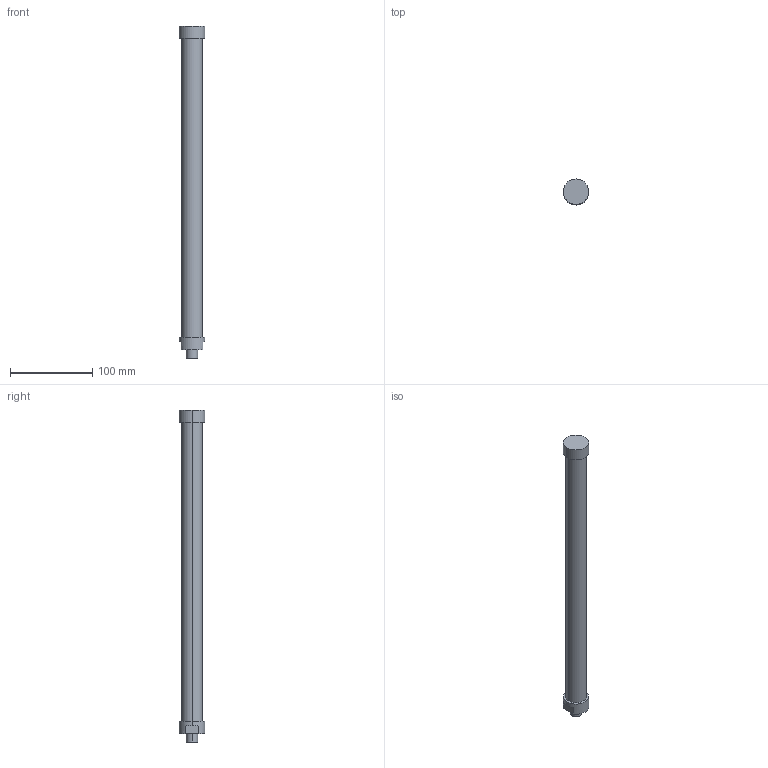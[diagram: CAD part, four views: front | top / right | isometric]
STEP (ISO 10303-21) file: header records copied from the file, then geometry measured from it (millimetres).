
FILE_DESCRIPTION(('STEP AP214'),'1');
FILE_NAME('C:/Users/Autocad/Desktop/L404-C180S1-FN.stp','2014-02-10T10:52:55',(' '),(' '),'Spatial InterOp 3D',' ',' ');
FILE_SCHEMA(('automotive_design'));
Length unit declared in the file: metre
Products named in the file (2): 1; 2
Bounding box: 31 x 31 x 404 mm (x, y, z)
Volume: 201892.2 mm3; surface area: 34555.4 mm2
Topology: 1 solids, 4 shells, 23 faces, 54 edges, 40 vertices
Faces by surface type: cylinder 12, plane 11
Entity records: 916 total; most frequent: DIRECTION 136, CARTESIAN_POINT 119, ORIENTED_EDGE 96, AXIS2_PLACEMENT_3D 57, EDGE_CURVE 54, VERTEX_POINT 40, CIRCLE 32, EDGE_LOOP 28
